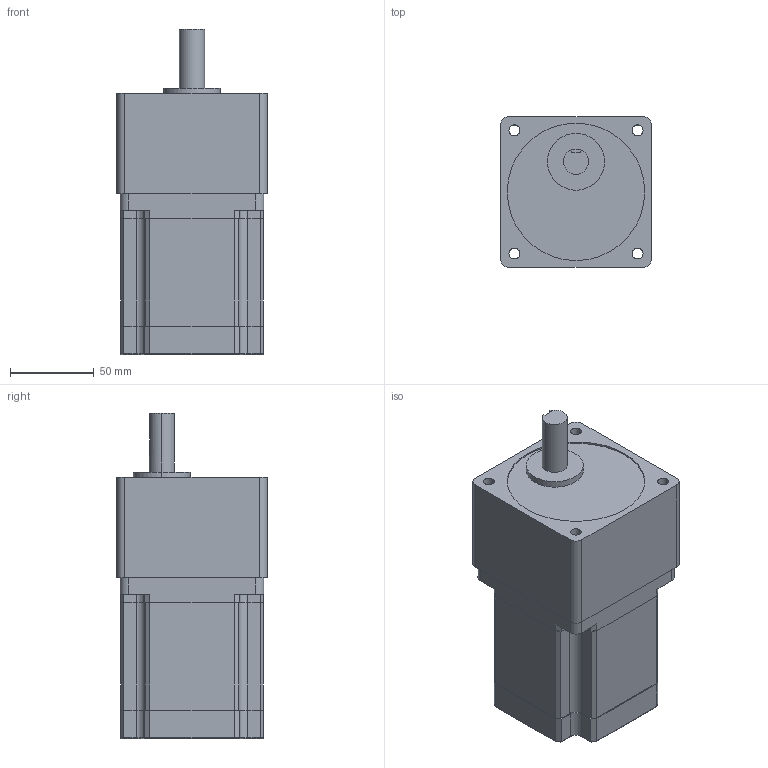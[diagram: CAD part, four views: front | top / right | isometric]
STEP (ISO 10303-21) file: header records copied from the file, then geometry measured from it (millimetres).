
FILE_DESCRIPTION (( 'STEP AP214' ), '1' );
FILE_NAME ('EXMK299-02GA.STEP', '2016-09-09T06:22:48', ( 'hoho' ), ( '' ), 'SwSTEP 2.0', 'SolidWorks 2013', '' );
FILE_SCHEMA (( 'AUTOMOTIVE_DESIGN' ));
Length unit declared in the file: millimetre
Products named in the file (1): EXMK299-02GA
Bounding box: 90 x 90 x 194 mm (x, y, z)
Volume: 1102370.8 mm3; surface area: 76292.5 mm2
Topology: 1 solids, 1 shells, 138 faces, 366 edges, 236 vertices
Faces by surface type: plane 80, cylinder 54, torus 4
Entity records: 4554 total; most frequent: CARTESIAN_POINT 789, ORIENTED_EDGE 732, DIRECTION 710, EDGE_CURVE 366, LINE 268, VECTOR 268, VERTEX_POINT 236, AXIS2_PLACEMENT_3D 221
